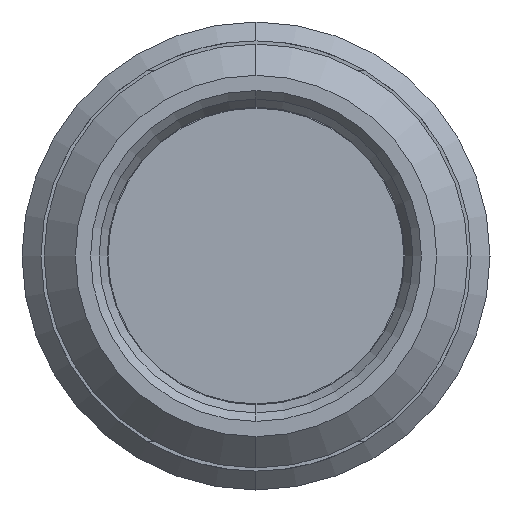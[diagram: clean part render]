
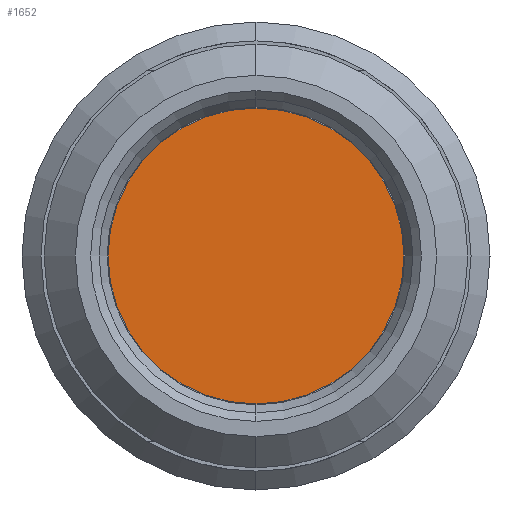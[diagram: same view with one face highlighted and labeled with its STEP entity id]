
A CAD part, left-side view. The second image highlights one B-rep face of the part: STEP entity #1652.
In plain terms, the highlighted planar face has unit normal (-1, 0, 0).
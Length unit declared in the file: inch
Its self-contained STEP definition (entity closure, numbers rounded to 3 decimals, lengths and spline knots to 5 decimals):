
#91 = CARTESIAN_POINT ( 'NONE',  ( 0.076, 0., 0. ) ) ;
#199 = ORIENTED_EDGE ( 'NONE', *, *, #1168, .T. ) ;
#228 = DIRECTION ( 'NONE',  ( -1., 0., 0. ) ) ;
#282 = DIRECTION ( 'NONE',  ( 0., 0., 1. ) ) ;
#491 = EDGE_CURVE ( 'NONE', #850, #1122, #1210, .T. ) ;
#526 = AXIS2_PLACEMENT_3D ( 'NONE', #1327, #228, #1518 ) ;
#588 = CIRCLE ( 'NONE', #1130, 0.086 ) ;
#646 = PLANE ( 'NONE',  #1252 ) ;
#745 = DIRECTION ( 'NONE',  ( -1., 0., 0. ) ) ;
#850 = VERTEX_POINT ( 'NONE', #1424 ) ;
#1122 = VERTEX_POINT ( 'NONE', #2282 ) ;
#1130 = AXIS2_PLACEMENT_3D ( 'NONE', #1850, #745, #2040 ) ;
#1168 = EDGE_CURVE ( 'NONE', #1122, #850, #588, .T. ) ;
#1210 = CIRCLE ( 'NONE', #526, 0.086 ) ;
#1238 = FACE_OUTER_BOUND ( 'NONE', #1341, .T. ) ;
#1252 = AXIS2_PLACEMENT_3D ( 'NONE', #91, #1383, #282 ) ;
#1327 = CARTESIAN_POINT ( 'NONE',  ( 0.076, 0., 0. ) ) ;
#1341 = EDGE_LOOP ( 'NONE', ( #199, #2374 ) ) ;
#1383 = DIRECTION ( 'NONE',  ( -1., 0., 0. ) ) ;
#1424 = CARTESIAN_POINT ( 'NONE',  ( 0.076, 0., 0.086 ) ) ;
#1518 = DIRECTION ( 'NONE',  ( 0., 0., 1. ) ) ;
#1652 = ADVANCED_FACE ( 'NONE', ( #1238 ), #646, .T. ) ;
#1850 = CARTESIAN_POINT ( 'NONE',  ( 0.076, 0., 0. ) ) ;
#2040 = DIRECTION ( 'NONE',  ( 0., 0., 1. ) ) ;
#2282 = CARTESIAN_POINT ( 'NONE',  ( 0.076, 0., -0.086 ) ) ;
#2374 = ORIENTED_EDGE ( 'NONE', *, *, #491, .T. ) ;
